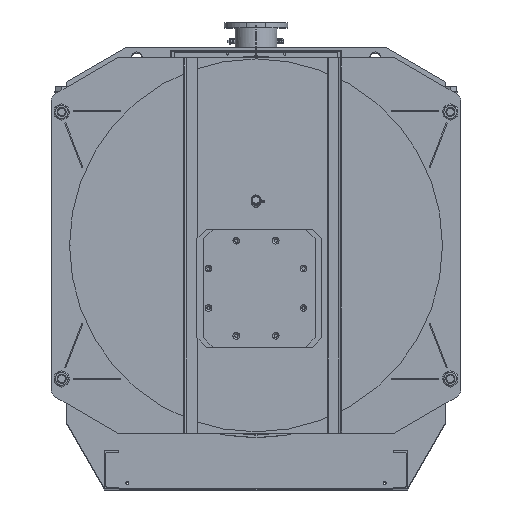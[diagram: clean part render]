
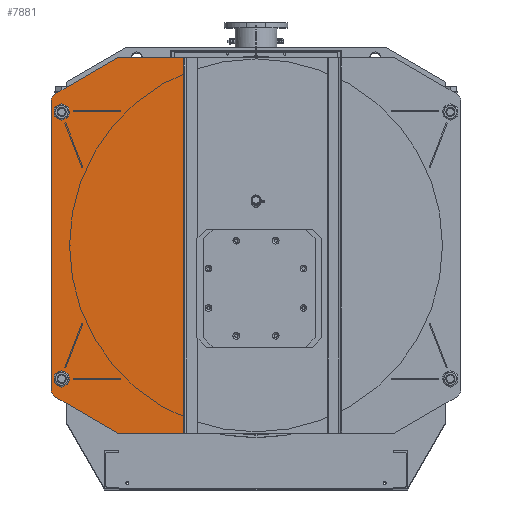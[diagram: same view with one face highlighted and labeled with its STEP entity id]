
A CAD part, top view. The second image highlights one B-rep face of the part: STEP entity #7881.
In plain terms, the highlighted planar face has unit normal (0, 0, 1).
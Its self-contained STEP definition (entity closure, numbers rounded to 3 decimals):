
#7881=ADVANCED_FACE('',(#21345,#21347,#21349),#21351,.F.);
#21345=FACE_BOUND('',#21346,.T.);
#21346=EDGE_LOOP('',(#34544,#34545,#34546,#34547,#34548,#34549,#34550,#34551));
#21347=FACE_BOUND('',#21348,.T.);
#21348=EDGE_LOOP('',(#34552));
#21349=FACE_BOUND('',#21350,.T.);
#21350=EDGE_LOOP('',(#34553));
#21351=PLANE('',#21352);
#21352=AXIS2_PLACEMENT_3D('',#21353,#21354,#21355);
#21353=CARTESIAN_POINT('',(0.,-225.,420.));
#21354=DIRECTION('',(0.,0.,-1.));
#21355=DIRECTION('',(-1.,0.,0.));
#34544=ORIENTED_EDGE('',*,*,#41932,.F.);
#34545=ORIENTED_EDGE('',*,*,#41711,.F.);
#34546=ORIENTED_EDGE('',*,*,#41708,.F.);
#34547=ORIENTED_EDGE('',*,*,#41706,.F.);
#34548=ORIENTED_EDGE('',*,*,#41704,.F.);
#34549=ORIENTED_EDGE('',*,*,#41703,.F.);
#34550=ORIENTED_EDGE('',*,*,#41701,.F.);
#34551=ORIENTED_EDGE('',*,*,#41699,.F.);
#34552=ORIENTED_EDGE('',*,*,#41935,.T.);
#34553=ORIENTED_EDGE('',*,*,#41936,.T.);
#41699=EDGE_CURVE('',#47863,#47835,#47865,.T.);
#41701=EDGE_CURVE('',#47835,#47866,#47868,.F.);
#41703=EDGE_CURVE('',#47866,#47869,#47871,.F.);
#41704=EDGE_CURVE('',#47869,#47872,#47873,.T.);
#41706=EDGE_CURVE('',#47872,#47875,#47876,.F.);
#41708=EDGE_CURVE('',#47875,#47878,#47879,.F.);
#41711=EDGE_CURVE('',#47878,#47883,#47884,.T.);
#41932=EDGE_CURVE('',#47883,#47863,#48259,.F.);
#41935=EDGE_CURVE('',#48263,#48263,#48264,.T.);
#41936=EDGE_CURVE('',#48265,#48265,#48266,.T.);
#47835=VERTEX_POINT('',#62615);
#47863=VERTEX_POINT('',#62675);
#47865=LINE('',#62679,#62680);
#47866=VERTEX_POINT('',#62682);
#47868=LINE('',#62686,#62687);
#47869=VERTEX_POINT('',#62689);
#47871=CIRCLE('',#62693,50.);
#47872=VERTEX_POINT('',#62697);
#47873=LINE('',#62698,#62699);
#47875=VERTEX_POINT('',#62704);
#47876=CIRCLE('',#62705,50.);
#47878=VERTEX_POINT('',#62712);
#47879=LINE('',#62713,#62714);
#47883=VERTEX_POINT('',#62723);
#47884=LINE('',#62724,#62725);
#48259=LINE('',#64380,#64381);
#48263=VERTEX_POINT('',#64390);
#48264=CIRCLE('',#64391,35.);
#48265=VERTEX_POINT('',#64395);
#48266=CIRCLE('',#64396,35.);
#62615=CARTESIAN_POINT('',(-725.,-985.,420.));
#62675=CARTESIAN_POINT('',(-380.,-985.,420.));
#62679=CARTESIAN_POINT('',(-380.,-985.,420.));
#62680=VECTOR('',#62681,1.);
#62681=DIRECTION('',(-1.,0.,0.));
#62682=CARTESIAN_POINT('',(-1050.,-797.361,420.));
#62686=CARTESIAN_POINT('',(-1050.,-797.361,420.));
#62687=VECTOR('',#62688,1.);
#62688=DIRECTION('',(0.866,-0.5,0.));
#62689=CARTESIAN_POINT('',(-1075.,-754.06,420.));
#62693=AXIS2_PLACEMENT_3D('',#62694,#62695,#62696);
#62694=CARTESIAN_POINT('',(-1025.,-754.06,420.));
#62695=DIRECTION('',(0.,0.,1.));
#62696=DIRECTION('',(-1.,0.,0.));
#62697=CARTESIAN_POINT('',(-1075.,754.06,420.));
#62698=CARTESIAN_POINT('',(-1075.,-754.06,420.));
#62699=VECTOR('',#62700,1.);
#62700=DIRECTION('',(0.,1.,0.));
#62704=CARTESIAN_POINT('',(-1050.,797.361,420.));
#62705=AXIS2_PLACEMENT_3D('',#62706,#62707,#62708);
#62706=CARTESIAN_POINT('',(-1025.,754.06,420.));
#62707=DIRECTION('',(0.,0.,1.));
#62708=DIRECTION('',(-0.5,0.866,0.));
#62712=CARTESIAN_POINT('',(-725.,985.,420.));
#62713=CARTESIAN_POINT('',(-725.,985.,420.));
#62714=VECTOR('',#62715,1.);
#62715=DIRECTION('',(-0.866,-0.5,0.));
#62723=CARTESIAN_POINT('',(-380.,985.,420.));
#62724=CARTESIAN_POINT('',(-725.,985.,420.));
#62725=VECTOR('',#62726,1.);
#62726=DIRECTION('',(1.,0.,0.));
#64380=CARTESIAN_POINT('',(-380.,-985.,420.));
#64381=VECTOR('',#64382,1.);
#64382=DIRECTION('',(0.,1.,0.));
#64390=CARTESIAN_POINT('',(-1055.,700.,420.));
#64391=AXIS2_PLACEMENT_3D('',#64392,#64393,#64394);
#64392=CARTESIAN_POINT('',(-1020.,700.,420.));
#64393=DIRECTION('',(0.,0.,-1.));
#64394=DIRECTION('',(-1.,0.,0.));
#64395=CARTESIAN_POINT('',(-1055.,-700.,420.));
#64396=AXIS2_PLACEMENT_3D('',#64397,#64398,#64399);
#64397=CARTESIAN_POINT('',(-1020.,-700.,420.));
#64398=DIRECTION('',(0.,0.,-1.));
#64399=DIRECTION('',(-1.,0.,0.));
